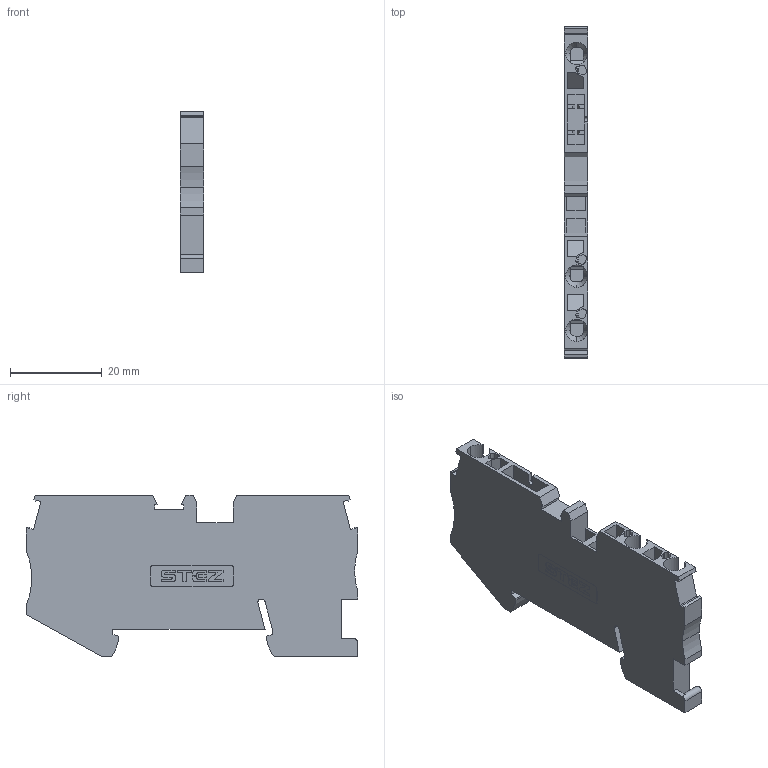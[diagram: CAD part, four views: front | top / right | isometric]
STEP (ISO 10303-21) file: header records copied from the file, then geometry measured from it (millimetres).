
FILE_DESCRIPTION(('TFLEX Exchange Step'),'2;1');
FILE_NAME('10200010_КНЗ_2,5-3-ВСТ.stp', '2024-03-11T13:25:54+03:00',('apanin'),('Unknown organisation'),'TFLEX Exchange 2023.2','T-FLEX CAD','Unknown authorisation');
FILE_SCHEMA( ('AUTOMOTIVE_DESIGN { 1 0 10303 214 1 1 1 1 }') );
Length unit declared in the file: millimetre
Products named in the file (1): Тело_1 - ST_2.5_TWIN_TG-select:1
Bounding box: 5.15 x 72.2 x 35.25 mm (x, y, z)
Volume: 9205.6 mm3; surface area: 7315.6 mm2
Topology: 1 solids, 1 shells, 477 faces, 1365 edges, 903 vertices
Faces by surface type: plane 246, cylinder 213, cone 18
Entity records: 16310 total; most frequent: CARTESIAN_POINT 3457, ORIENTED_EDGE 2730, DIRECTION 2684, EDGE_CURVE 1365, VERTEX_POINT 903, AXIS2_PLACEMENT_3D 899, VECTOR 886, LINE 886
